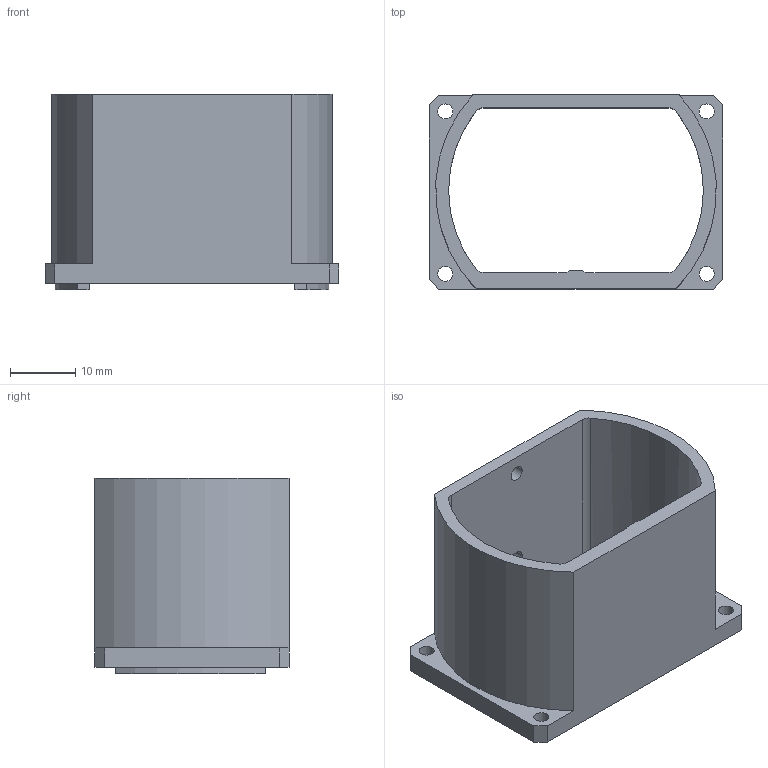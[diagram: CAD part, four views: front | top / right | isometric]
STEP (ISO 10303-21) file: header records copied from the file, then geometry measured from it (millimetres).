
FILE_DESCRIPTION(('CATIA V5 STEP Exchange'),'2;1');
FILE_NAME('C:\Users\IS33\Desktop\220114移動データ\DT341M518-00-.stp','2022-01-14T01:23:42+00:00',('none'),('none'),'CATIA Version 5-6 Release 2019 SP3','CATIA V5 STEP AP203 v1','none');
FILE_SCHEMA(('CONFIG_CONTROL_DESIGN'));
Length unit declared in the file: millimetre
Products named in the file (1): LENS_HOLDER_3-3
Bounding box: 45 x 29.7 x 30 mm (x, y, z)
Volume: 7987.9 mm3; surface area: 8084.6 mm2
Topology: 1 solids, 1 shells, 46 faces, 132 edges, 88 vertices
Faces by surface type: cylinder 24, plane 22
Entity records: 1490 total; most frequent: ORIENTED_EDGE 264, CARTESIAN_POINT 256, DIRECTION 202, EDGE_CURVE 132, AXIS2_PLACEMENT_3D 88, VERTEX_POINT 88, VECTOR 80, LINE 80
